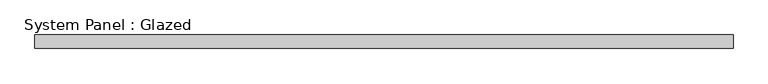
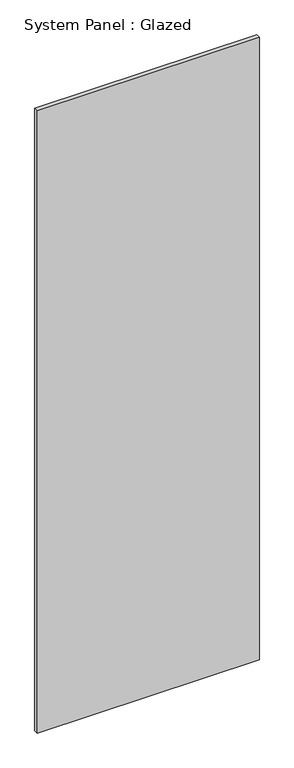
"""IFC4 building model written with IfcOpenShell, lengths in millimetres: plate geometry, System Panel : Glazed."""

from ifc_helpers import new_model, si_unit, origin, origin_with_axes, place, context, project, spatial, polyline, outline, extrude, source, transform, mapped, element, save


def system_panel_glazed_f91df05e(model_context):
    return source(origin(), model_context, "Body", "SweptSolid", [
        extrude(outline(polyline([(660.033654, 19.05), (-660.033654, 19.05), (-660.033654, 44.45), (660.033654, 44.45), (660.033654, 19.05)])), origin_with_axes(), (0.0, 0.0, 1.0), 3908.2835741),
    ])


if __name__ == "__main__":
    model = new_model("IFC4")
    model_context = context("Model", 3, world=origin())
    ifc_project = project(units=[si_unit("LENGTHUNIT", "METRE", prefix="MILLI")], contexts=[model_context])
    site = spatial("IfcSite", under=ifc_project)
    building = spatial("IfcBuilding", under=site)
    placement = place(None, origin())
    system_panel_glazed_shape = system_panel_glazed_f91df05e(model_context)
    element("IfcPlate", 1, ObjectType="System Panel : Glazed", at=placement, inside=building, context=model_context, shape_type="MappedRepresentation", body=[
        mapped(system_panel_glazed_shape, transform((0.0, 0.0, 0.0), x_axis=(1.0, 0.0, 0.0), y_axis=(0.0, 1.0, 0.0), z_axis=(0.0, 0.0, 1.0))),
    ])
    save(model, "model.ifc")
